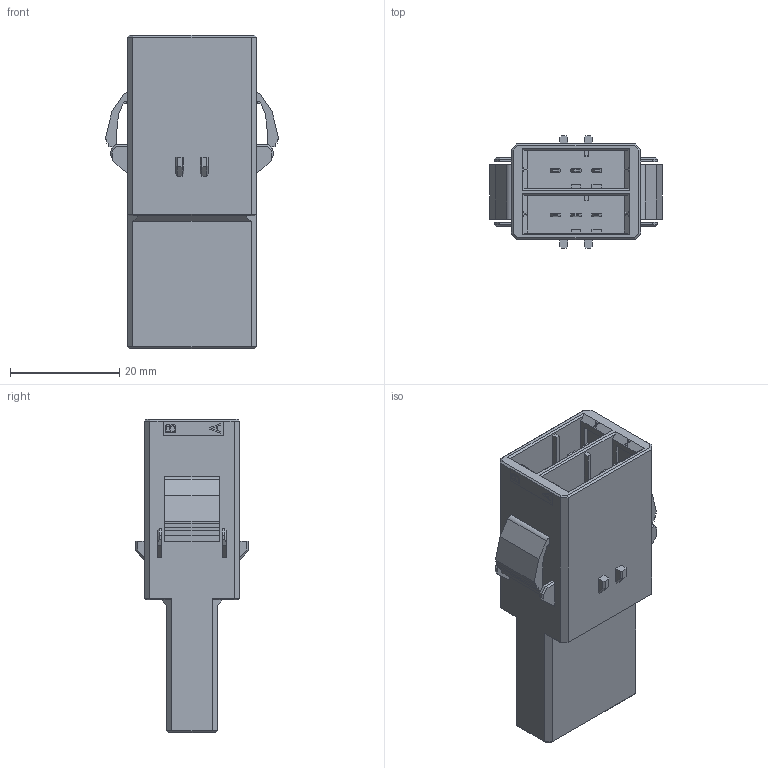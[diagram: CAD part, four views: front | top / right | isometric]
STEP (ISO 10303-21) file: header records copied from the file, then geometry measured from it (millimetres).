
FILE_DESCRIPTION (( 'STEP AP203' ), '1' );
FILE_NAME ('DK-3100S-0306AD.STEP', '2023-10-13T02:41:46', ( '' ), ( '' ), 'SwSTEP 2.0', 'SolidWorks 2018', '' );
FILE_SCHEMA (( 'CONFIG_CONTROL_DESIGN' ));
Length unit declared in the file: millimetre
Products named in the file (1): DK-3100S-0306AD
Bounding box: 31.62 x 20.5 x 57.28 mm (x, y, z)
Volume: 13106 mm3; surface area: 8896.1 mm2
Topology: 1 solids, 1 shells, 944 faces, 2570 edges, 1696 vertices
Faces by surface type: plane 684, bspline 244, cylinder 16
Entity records: 36395 total; most frequent: CARTESIAN_POINT 14127, ORIENTED_EDGE 5140, DIRECTION 3516, EDGE_CURVE 2570, VECTOR 2050, LINE 2050, VERTEX_POINT 1696, EDGE_LOOP 1012
